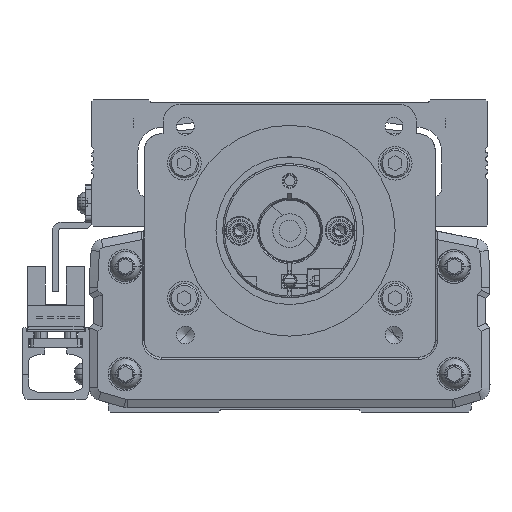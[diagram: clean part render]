
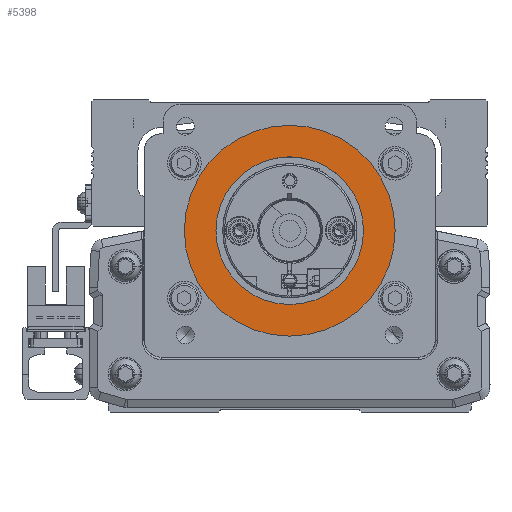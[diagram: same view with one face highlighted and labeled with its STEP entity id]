
A CAD part, front view. The second image highlights one B-rep face of the part: STEP entity #5398.
In plain terms, the highlighted planar face has unit normal (0, -1, 0).
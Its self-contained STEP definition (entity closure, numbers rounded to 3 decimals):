
#5398=ADVANCED_FACE('',(#13600,#13601),#13602,.T.);
#13600=FACE_BOUND('',#25461,.T.);
#13601=FACE_OUTER_BOUND('',#25462,.T.);
#13602=PLANE('',#25463);
#25461=EDGE_LOOP('',(#42161,#42162));
#25462=EDGE_LOOP('',(#42163,#42164));
#25463=AXIS2_PLACEMENT_3D('',#42165,#42166,#42167);
#42161=ORIENTED_EDGE('',*,*,#72629,.T.);
#42162=ORIENTED_EDGE('',*,*,#72630,.T.);
#42163=ORIENTED_EDGE('',*,*,#72068,.F.);
#42164=ORIENTED_EDGE('',*,*,#72631,.F.);
#42165=CARTESIAN_POINT('',(0.,-260.778,0.));
#42166=DIRECTION('',(0.,-1.0,0.));
#42167=DIRECTION('',(1.0,0.,0.));
#72068=EDGE_CURVE('',#87042,#87045,#87046,.T.);
#72629=EDGE_CURVE('',#87980,#87981,#87982,.T.);
#72630=EDGE_CURVE('',#87981,#87980,#87983,.T.);
#72631=EDGE_CURVE('',#87045,#87042,#87984,.T.);
#87042=VERTEX_POINT('',#107581);
#87045=VERTEX_POINT('',#107585);
#87046=CIRCLE('',#107586,25.0);
#87980=VERTEX_POINT('',#108764);
#87981=VERTEX_POINT('',#108765);
#87982=CIRCLE('',#108766,17.5);
#87983=CIRCLE('',#108767,17.5);
#87984=CIRCLE('',#108768,25.0);
#107581=CARTESIAN_POINT('',(25.,-260.778,0.));
#107585=CARTESIAN_POINT('',(-25.,-260.778,0.));
#107586=AXIS2_PLACEMENT_3D('',#131500,#131501,#131502);
#108764=CARTESIAN_POINT('',(17.5,-260.778,0.));
#108765=CARTESIAN_POINT('',(-17.5,-260.778,0.));
#108766=AXIS2_PLACEMENT_3D('',#132390,#132391,#132392);
#108767=AXIS2_PLACEMENT_3D('',#132393,#132394,#132395);
#108768=AXIS2_PLACEMENT_3D('',#132396,#132397,#132398);
#131500=CARTESIAN_POINT('',(0.,-260.778,0.));
#131501=DIRECTION('',(0.,1.0,0.));
#131502=DIRECTION('',(1.0,0.,0.));
#132390=CARTESIAN_POINT('',(0.,-260.778,0.));
#132391=DIRECTION('',(0.,1.0,0.));
#132392=DIRECTION('',(-1.0,0.,0.));
#132393=CARTESIAN_POINT('',(0.,-260.778,0.));
#132394=DIRECTION('',(0.,1.0,0.));
#132395=DIRECTION('',(-1.0,0.,0.));
#132396=CARTESIAN_POINT('',(0.,-260.778,0.));
#132397=DIRECTION('',(0.,1.0,0.));
#132398=DIRECTION('',(1.0,0.,0.));
